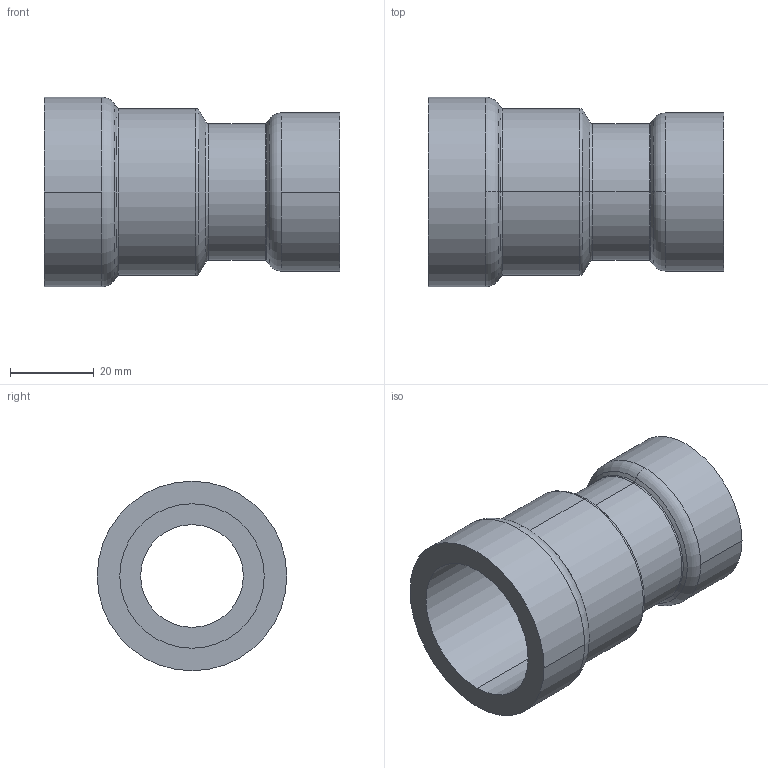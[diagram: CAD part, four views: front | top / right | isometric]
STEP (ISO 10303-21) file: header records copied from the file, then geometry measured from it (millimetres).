
FILE_DESCRIPTION(('Creo Elements/Direct Modeling STEP Export'),'2;1');
FILE_NAME('C9439_1_3-4.stp','2020-07-20T10:05:59',(''),(''),'PTC Creo Elements/Direct Modeling STEP processor for AP214 (Solid Model)','PTC Creo Elements/Direct Modeling 19.0C 15-Aug-2015 (C) Parametric Technology GmbH','');
FILE_SCHEMA(('AUTOMOTIVE_DESIGN { 1 0 10303 214 1 1 1 1 }'));
Length unit declared in the file: millimetre
Products named in the file (2): C9439_1_3-4
Assembly tree (1 placements, depth 2):
  C9439_1_3-4
    C9439_1_3-4
Bounding box: 70.77 x 45.4 x 45.4 mm (x, y, z)
Volume: 30829.1 mm3; surface area: 17918 mm2
Topology: 1 solids, 1 shells, 36 faces, 76 edges, 44 vertices
Faces by surface type: cylinder 14, torus 12, cone 6, plane 4
Entity records: 905 total; most frequent: DIRECTION 160, ORIENTED_EDGE 152, CARTESIAN_POINT 134, EDGE_CURVE 76, AXIS2_PLACEMENT_3D 70, VERTEX_POINT 44, EDGE_LOOP 40, FACE_OUTER_BOUND 36
